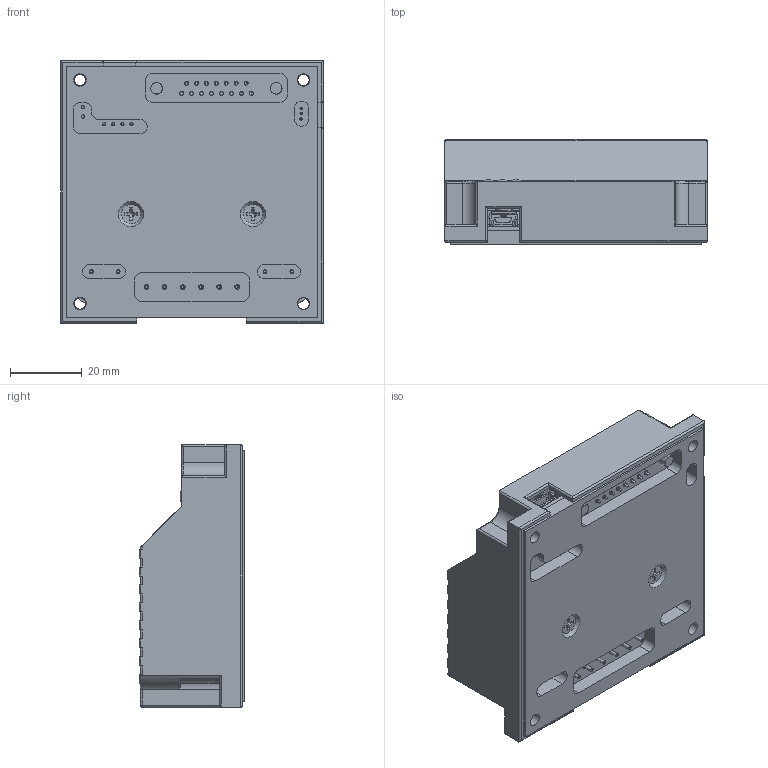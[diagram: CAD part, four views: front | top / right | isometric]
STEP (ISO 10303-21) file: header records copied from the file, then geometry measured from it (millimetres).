
FILE_DESCRIPTION (( 'STEP AP214' ), '1' );
FILE_NAME ('SDC21xx_CAD_v21.STEP', '2020-03-27T16:45:43', ( '' ), ( '' ), 'SwSTEP 2.0', 'SolidWorks 2018', '' );
FILE_SCHEMA (( 'AUTOMOTIVE_DESIGN' ));
Length unit declared in the file: millimetre
Products named in the file (7): SDC21xx_CAD_v21; 91771A112_18-8 SS FLAT HEAD PHILLIPS MACHINE SCREW_91771A112; base; SDC21xx_PCB_v21; 90480A005_LOW-STRENGTH STEEL HEX NUT_90480A005; sdc-case; ledpipe
Assembly tree (10 placements, depth 2):
  SDC21xx_CAD_v21
    base
    SDC21xx_PCB_v21
    sdc-case
    ledpipe  x3
    90480A005_LOW-STRENGTH STEEL HEX NUT_90480A005  x2
    91771A112_18-8 SS FLAT HEAD PHILLIPS MACHINE SCREW_91771A112  x2
Bounding box: 73 x 29.44 x 73 mm (x, y, z)
Volume: 51701.3 mm3; surface area: 55965.7 mm2
Topology: 27 solids, 27 shells, 2011 faces, 5387 edges, 3469 vertices
Faces by surface type: plane 1160, cylinder 630, bspline 153, cone 67, torus 1
Full cylindrical faces by diameter (mm): 0.5 x6, 0.7 x3, 0.8 x6, 0.9 x8, 1 x6, 1.09 x15, 1.1 x19, 1.3 x6, 2.2 x2, 2.845 x2, 2.9 x3, 3 x5, 3.1 x2, 3.175 x6, 3.2 x4, 3.25 x2, 3.5 x4, 3.7 x6, 3.8 x6, 4.5 x2, 6.1 x2
Entity records: 82094 total; most frequent: CARTESIAN_POINT 20940, ORIENTED_EDGE 9824, DIRECTION 8694, EDGE_CURVE 4912, VERTEX_POINT 3261, VECTOR 3256, LINE 3256, AXIS2_PLACEMENT_3D 2719
